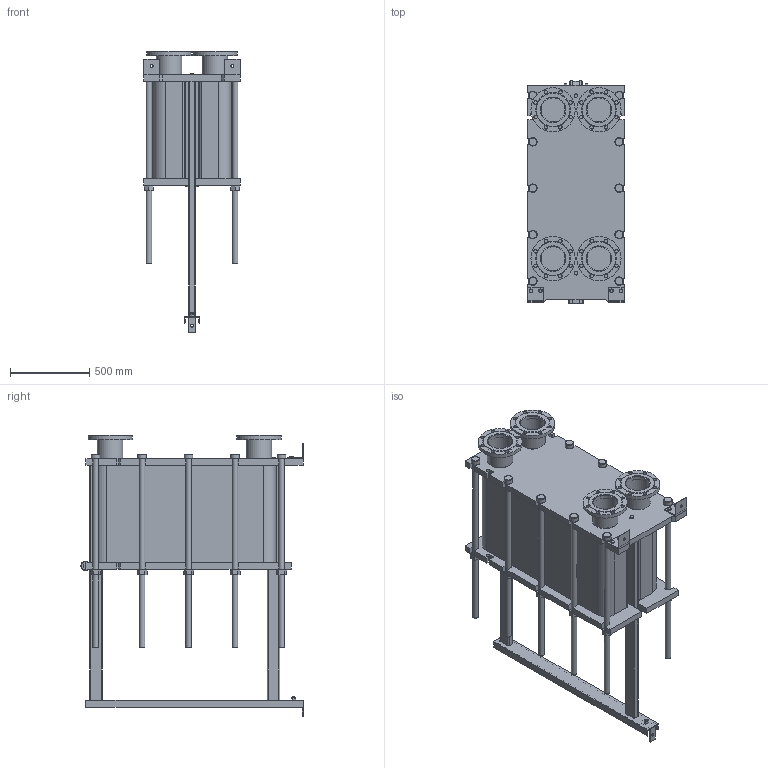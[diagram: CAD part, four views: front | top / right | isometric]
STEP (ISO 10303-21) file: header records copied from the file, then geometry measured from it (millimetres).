
FILE_DESCRIPTION(/* description */ (''),/* implementation_level */ '2;1');
FILE_NAME(/* name */ 'C:\Users\zhuro\Desktop\ENCO\TO\ЭН-041\ЭН-0,5-041-179-1.stp',/* time_stamp */ '2022-06-06T11:05:06+03:00',/* author */ ('zhuro'),/* organization */ (''),/* preprocessor_version */ 'ST-DEVELOPER v18.1',/* originating_system */ 'Autodesk Inventor 2022',/* authorisation */ '');
FILE_SCHEMA (('AUTOMOTIVE_DESIGN { 1 0 10303 214 3 1 1 }'));
Length unit declared in the file: millimetre
Products named in the file (1): ЭН-0,5-041-179-1
Bounding box: 610 x 1406.5 x 1782.5 mm (x, y, z)
Volume: 433357825.5 mm3; surface area: 10766396.3 mm2
Topology: 52 solids, 52 shells, 711 faces, 1696 edges, 1094 vertices
Faces by surface type: plane 487, cylinder 177, cone 41, torus 6
Full cylindrical faces by diameter (mm): 8 x4, 10 x2, 16 x8, 18 x3, 22 x32, 36 x24, 50 x1, 54 x10, 60 x12, 151 x4, 161 x8, 280 x4
Entity records: 22667 total; most frequent: CARTESIAN_POINT 5230, DIRECTION 3644, ORIENTED_EDGE 3392, EDGE_CURVE 1696, AXIS2_PLACEMENT_3D 1272, LINE 1100, VECTOR 1100, VERTEX_POINT 1094
